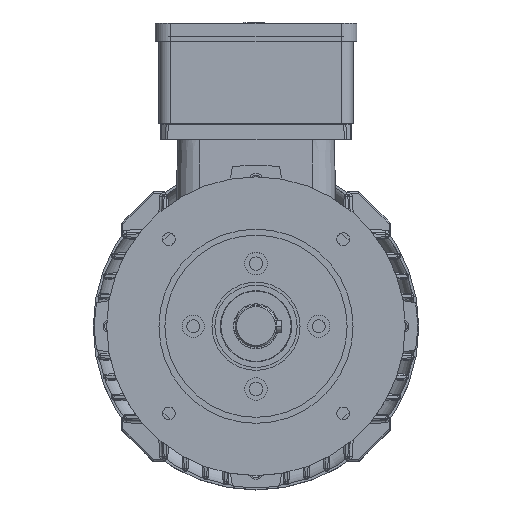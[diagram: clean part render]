
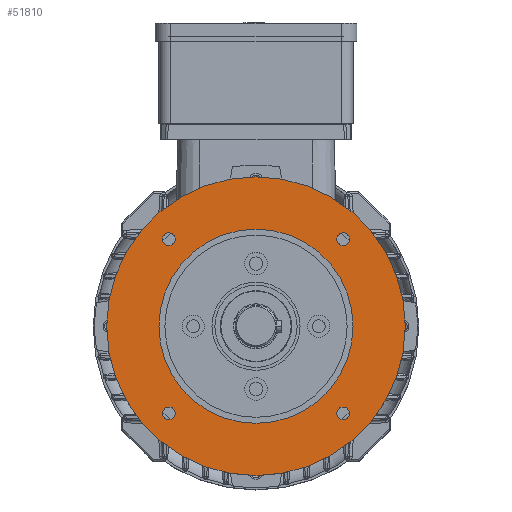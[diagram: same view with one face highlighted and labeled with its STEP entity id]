
A CAD part, top view. The second image highlights one B-rep face of the part: STEP entity #51810.
In plain terms, the highlighted planar face has unit normal (0, 0, 1).
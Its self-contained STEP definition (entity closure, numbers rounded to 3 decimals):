
#1671 = DIRECTION ( 'NONE',  ( 1., 0., 0. ) ) ;
#3324 = CARTESIAN_POINT ( 'NONE',  ( 0., 0., 165. ) ) ;
#3380 = EDGE_LOOP ( 'NONE', ( #147949, #10099 ) ) ;
#3532 = CARTESIAN_POINT ( 'NONE',  ( -54.086, -58.336, 165. ) ) ;
#6815 = DIRECTION ( 'NONE',  ( -1., 0., 0. ) ) ;
#7695 = DIRECTION ( 'NONE',  ( 1., 0., 0. ) ) ;
#7854 = DIRECTION ( 'NONE',  ( 0., 0., 1. ) ) ;
#7934 = AXIS2_PLACEMENT_3D ( 'NONE', #156655, #93182, #6815 ) ;
#8914 = DIRECTION ( 'NONE',  ( 1., 0., 0. ) ) ;
#9065 = EDGE_CURVE ( 'NONE', #58214, #147286, #81421, .T. ) ;
#9642 = VERTEX_POINT ( 'NONE', #54567 ) ;
#9918 = AXIS2_PLACEMENT_3D ( 'NONE', #15162, #26063, #114657 ) ;
#10099 = ORIENTED_EDGE ( 'NONE', *, *, #61870, .F. ) ;
#10476 = CARTESIAN_POINT ( 'NONE',  ( 0., 0., 165. ) ) ;
#10632 = CARTESIAN_POINT ( 'NONE',  ( -65., 0., 165. ) ) ;
#12642 = CARTESIAN_POINT ( 'NONE',  ( -54.086, 58.336, 165. ) ) ;
#14852 = AXIS2_PLACEMENT_3D ( 'NONE', #32105, #69878, #157460 ) ;
#15162 = CARTESIAN_POINT ( 'NONE',  ( 58.336, 58.336, 165. ) ) ;
#17524 = CARTESIAN_POINT ( 'NONE',  ( -100., 0., 165. ) ) ;
#19800 = CARTESIAN_POINT ( 'NONE',  ( -58.336, -58.336, 165. ) ) ;
#20700 = EDGE_CURVE ( 'NONE', #140943, #91826, #146360, .T. ) ;
#20944 = FACE_BOUND ( 'NONE', #56035, .T. ) ;
#21405 = CIRCLE ( 'NONE', #91003, 4.25 ) ;
#21808 = DIRECTION ( 'NONE',  ( 0., 0., 1. ) ) ;
#26063 = DIRECTION ( 'NONE',  ( 0., 0., 1. ) ) ;
#26081 = ORIENTED_EDGE ( 'NONE', *, *, #32214, .F. ) ;
#26174 = EDGE_CURVE ( 'NONE', #76528, #58629, #117086, .T. ) ;
#28184 = ORIENTED_EDGE ( 'NONE', *, *, #118026, .F. ) ;
#31348 = AXIS2_PLACEMENT_3D ( 'NONE', #32580, #44647, #148013 ) ;
#32105 = CARTESIAN_POINT ( 'NONE',  ( 58.336, -58.336, 165. ) ) ;
#32214 = EDGE_CURVE ( 'NONE', #153123, #9642, #128378, .T. ) ;
#32580 = CARTESIAN_POINT ( 'NONE',  ( 0., 0., 165. ) ) ;
#34538 = DIRECTION ( 'NONE',  ( 1., 0., 0. ) ) ;
#35992 = EDGE_CURVE ( 'NONE', #9642, #153123, #134775, .T. ) ;
#38463 = FACE_BOUND ( 'NONE', #138242, .T. ) ;
#42912 = CARTESIAN_POINT ( 'NONE',  ( 100., 0., 165. ) ) ;
#44647 = DIRECTION ( 'NONE',  ( 0., 0., 1. ) ) ;
#46614 = CARTESIAN_POINT ( 'NONE',  ( -58.336, -58.336, 165. ) ) ;
#46631 = CARTESIAN_POINT ( 'NONE',  ( 62.586, 58.336, 165. ) ) ;
#48113 = VERTEX_POINT ( 'NONE', #3532 ) ;
#48278 = EDGE_CURVE ( 'NONE', #91826, #140943, #21405, .T. ) ;
#51810 = ADVANCED_FACE ( 'NONE', ( #110991, #107074, #20944, #38463, #69906, #150153 ), #155577, .F. ) ;
#52076 = AXIS2_PLACEMENT_3D ( 'NONE', #153117, #114768, #1671 ) ;
#54567 = CARTESIAN_POINT ( 'NONE',  ( 65., 0., 165. ) ) ;
#56035 = EDGE_LOOP ( 'NONE', ( #28184, #64963 ) ) ;
#57461 = CIRCLE ( 'NONE', #134712, 100. ) ;
#58214 = VERTEX_POINT ( 'NONE', #87573 ) ;
#58629 = VERTEX_POINT ( 'NONE', #98886 ) ;
#58803 = AXIS2_PLACEMENT_3D ( 'NONE', #3324, #67247, #83687 ) ;
#59238 = DIRECTION ( 'NONE',  ( 0., 0., 1. ) ) ;
#61870 = EDGE_CURVE ( 'NONE', #149960, #48113, #153822, .T. ) ;
#64354 = CARTESIAN_POINT ( 'NONE',  ( -58.336, 58.336, 165. ) ) ;
#64963 = ORIENTED_EDGE ( 'NONE', *, *, #9065, .F. ) ;
#66939 = ORIENTED_EDGE ( 'NONE', *, *, #137680, .T. ) ;
#67247 = DIRECTION ( 'NONE',  ( 0., 0., 1. ) ) ;
#69878 = DIRECTION ( 'NONE',  ( 0., 0., 1. ) ) ;
#69906 = FACE_BOUND ( 'NONE', #111257, .T. ) ;
#69955 = CARTESIAN_POINT ( 'NONE',  ( 0., 0., 165. ) ) ;
#70135 = AXIS2_PLACEMENT_3D ( 'NONE', #118834, #7854, #8914 ) ;
#75012 = DIRECTION ( 'NONE',  ( 1., 0., 0. ) ) ;
#76528 = VERTEX_POINT ( 'NONE', #12642 ) ;
#77048 = EDGE_CURVE ( 'NONE', #48113, #149960, #146904, .T. ) ;
#78229 = VERTEX_POINT ( 'NONE', #17524 ) ;
#78923 = CIRCLE ( 'NONE', #52076, 4.25 ) ;
#81421 = CIRCLE ( 'NONE', #70135, 4.25 ) ;
#83687 = DIRECTION ( 'NONE',  ( 1., 0., 0. ) ) ;
#84080 = ORIENTED_EDGE ( 'NONE', *, *, #103639, .T. ) ;
#85373 = DIRECTION ( 'NONE',  ( 1., 0., 0. ) ) ;
#86458 = CIRCLE ( 'NONE', #58803, 100. ) ;
#87573 = CARTESIAN_POINT ( 'NONE',  ( 54.086, -58.336, 165. ) ) ;
#90092 = ORIENTED_EDGE ( 'NONE', *, *, #109791, .F. ) ;
#91003 = AXIS2_PLACEMENT_3D ( 'NONE', #99095, #136801, #75012 ) ;
#91826 = VERTEX_POINT ( 'NONE', #100365 ) ;
#92664 = CIRCLE ( 'NONE', #14852, 4.25 ) ;
#93182 = DIRECTION ( 'NONE',  ( 0., 0., -1. ) ) ;
#96254 = EDGE_LOOP ( 'NONE', ( #84080, #66939 ) ) ;
#98788 = CARTESIAN_POINT ( 'NONE',  ( 62.586, -58.336, 165. ) ) ;
#98886 = CARTESIAN_POINT ( 'NONE',  ( -62.586, 58.336, 165. ) ) ;
#99095 = CARTESIAN_POINT ( 'NONE',  ( 58.336, 58.336, 165. ) ) ;
#100365 = CARTESIAN_POINT ( 'NONE',  ( 54.086, 58.336, 165. ) ) ;
#100619 = AXIS2_PLACEMENT_3D ( 'NONE', #46614, #59238, #34538 ) ;
#103639 = EDGE_CURVE ( 'NONE', #162101, #78229, #57461, .T. ) ;
#106191 = DIRECTION ( 'NONE',  ( 1., 0., 0. ) ) ;
#107074 = FACE_BOUND ( 'NONE', #3380, .T. ) ;
#109791 = EDGE_CURVE ( 'NONE', #58629, #76528, #78923, .T. ) ;
#110991 = FACE_BOUND ( 'NONE', #156713, .T. ) ;
#111257 = EDGE_LOOP ( 'NONE', ( #155610, #26081 ) ) ;
#111652 = AXIS2_PLACEMENT_3D ( 'NONE', #64354, #151924, #126709 ) ;
#114657 = DIRECTION ( 'NONE',  ( 1., 0., 0. ) ) ;
#114768 = DIRECTION ( 'NONE',  ( 0., 0., 1. ) ) ;
#117086 = CIRCLE ( 'NONE', #111652, 4.25 ) ;
#118026 = EDGE_CURVE ( 'NONE', #147286, #58214, #92664, .T. ) ;
#118834 = CARTESIAN_POINT ( 'NONE',  ( 58.336, -58.336, 165. ) ) ;
#118870 = AXIS2_PLACEMENT_3D ( 'NONE', #10476, #160885, #85373 ) ;
#119381 = ORIENTED_EDGE ( 'NONE', *, *, #26174, .F. ) ;
#119810 = AXIS2_PLACEMENT_3D ( 'NONE', #19800, #131899, #106191 ) ;
#123602 = ORIENTED_EDGE ( 'NONE', *, *, #20700, .F. ) ;
#126709 = DIRECTION ( 'NONE',  ( 1., 0., 0. ) ) ;
#127664 = ORIENTED_EDGE ( 'NONE', *, *, #48278, .F. ) ;
#128378 = CIRCLE ( 'NONE', #118870, 65. ) ;
#131899 = DIRECTION ( 'NONE',  ( 0., 0., 1. ) ) ;
#134712 = AXIS2_PLACEMENT_3D ( 'NONE', #69955, #21808, #7695 ) ;
#134775 = CIRCLE ( 'NONE', #31348, 65. ) ;
#136801 = DIRECTION ( 'NONE',  ( 0., 0., 1. ) ) ;
#137322 = CARTESIAN_POINT ( 'NONE',  ( -62.586, -58.336, 165. ) ) ;
#137680 = EDGE_CURVE ( 'NONE', #78229, #162101, #86458, .T. ) ;
#138242 = EDGE_LOOP ( 'NONE', ( #123602, #127664 ) ) ;
#140943 = VERTEX_POINT ( 'NONE', #46631 ) ;
#146360 = CIRCLE ( 'NONE', #9918, 4.25 ) ;
#146904 = CIRCLE ( 'NONE', #100619, 4.25 ) ;
#147286 = VERTEX_POINT ( 'NONE', #98788 ) ;
#147949 = ORIENTED_EDGE ( 'NONE', *, *, #77048, .F. ) ;
#148013 = DIRECTION ( 'NONE',  ( 1., 0., 0. ) ) ;
#149960 = VERTEX_POINT ( 'NONE', #137322 ) ;
#150153 = FACE_OUTER_BOUND ( 'NONE', #96254, .T. ) ;
#151924 = DIRECTION ( 'NONE',  ( 0., 0., 1. ) ) ;
#153117 = CARTESIAN_POINT ( 'NONE',  ( -58.336, 58.336, 165. ) ) ;
#153123 = VERTEX_POINT ( 'NONE', #10632 ) ;
#153822 = CIRCLE ( 'NONE', #119810, 4.25 ) ;
#155577 = PLANE ( 'NONE',  #7934 ) ;
#155610 = ORIENTED_EDGE ( 'NONE', *, *, #35992, .F. ) ;
#156655 = CARTESIAN_POINT ( 'NONE',  ( 0., 65., 165. ) ) ;
#156713 = EDGE_LOOP ( 'NONE', ( #119381, #90092 ) ) ;
#157460 = DIRECTION ( 'NONE',  ( 1., 0., 0. ) ) ;
#160885 = DIRECTION ( 'NONE',  ( 0., 0., 1. ) ) ;
#162101 = VERTEX_POINT ( 'NONE', #42912 ) ;
